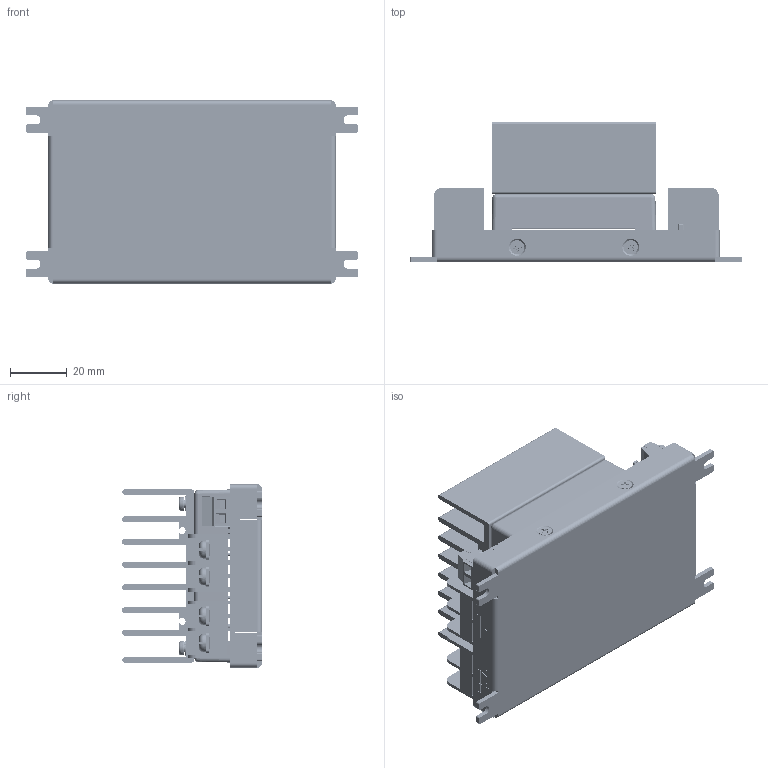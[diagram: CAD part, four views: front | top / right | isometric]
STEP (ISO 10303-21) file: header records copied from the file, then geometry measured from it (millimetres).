
FILE_DESCRIPTION (( 'STEP AP214' ), '1' );
FILE_NAME ('CHB100W-48S24-CM+MC092組合件-1050722.STEP', '2018-03-28T08:19:29', ( 'cincon' ), ( '' ), 'SwSTEP 2.0', 'SolidWorks 2008', '' );
FILE_SCHEMA (( 'AUTOMOTIVE_DESIGN' ));
Length unit declared in the file: millimetre
Products named in the file (18): CHB  鋁板CASE-1020704_預設; 平頭十字螺絲 M3x5mm(M-H003-00-S)G75A1100662_預設; CHB100W內組件示意圖990813; CHB100W(G5122441513)990813; CHB100W組合件 990813; CHB SERIES 鋁擠型散熱片(G6610130402)M-C092-04-A_預設; ELK508V-03P(DINKLE)-1000221; ELK508V-02P; M3x10mm圓頭十字螺絲SMP+W; Header 2x2PIN; PCB Terminal P9.5-2PIN; CHB100W-48S24+MC092組合件-1050719_預設; M3x6mm圓頭十字螺絲SMP+W; CMJ-20ABL_預設; PCB Terminal P9.5-4PIN; CHB PCB-1020322_預設; CHB固定片L型-1020704_預設; CHB100W-48S24-CM+MC092組合件-1050722
Assembly tree (30 placements, depth 4):
  CHB100W-48S24-CM+MC092組合件-1050722
    M3x10mm圓頭十字螺絲SMP+W  x4
    PCB Terminal P9.5-4PIN
    CHB PCB-1020322_預設
    Header 2x2PIN  x2
    M3x6mm圓頭十字螺絲SMP+W  x4
    PCB Terminal P9.5-2PIN  x2
    ELK508V-03P(DINKLE)-1000221
    CHB100W-48S24+MC092組合件-1050719_預設
      CHB100W組合件 990813
        CHB100W(G5122441513)990813
        CHB100W內組件示意圖990813
      CHB SERIES 鋁擠型散熱片(G6610130402)M-C092-04-A_預設
    平頭十字螺絲 M3x5mm(M-H003-00-S)G75A1100662_預設  x4
    ELK508V-02P
    CHB固定片L型-1020704_預設  x2
    CHB  鋁板CASE-1020704_預設
    CMJ-20ABL_預設  x2
Bounding box: 117 x 49.3 x 64.6 mm (x, y, z)
Volume: 114941.2 mm3; surface area: 101791.3 mm2
Topology: 36 solids, 36 shells, 2629 faces, 7207 edges, 4744 vertices
Faces by surface type: plane 1398, cylinder 917, cone 134, bspline 118, torus 56, sphere 6
Entity records: 75337 total; most frequent: CARTESIAN_POINT 29661, ORIENTED_EDGE 9838, DIRECTION 8386, EDGE_CURVE 4919, LINE 3376, VECTOR 3376, VERTEX_POINT 3226, AXIS2_PLACEMENT_3D 2505
